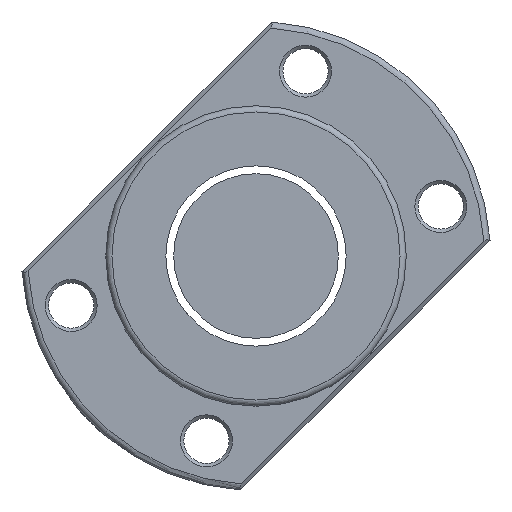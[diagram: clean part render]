
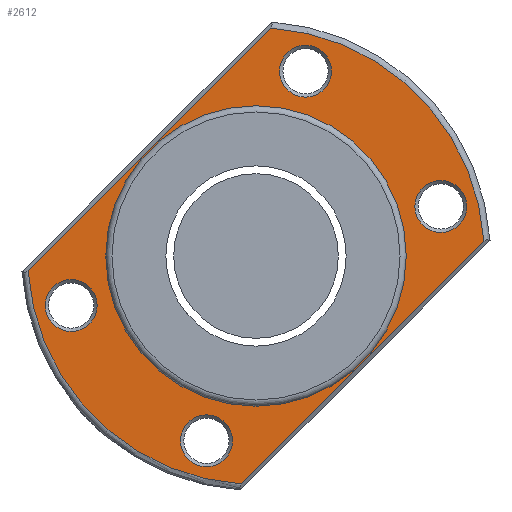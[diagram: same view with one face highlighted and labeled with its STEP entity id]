
A CAD part, left-side view. The second image highlights one B-rep face of the part: STEP entity #2612.
In plain terms, the highlighted planar face has unit normal (-1, 0, 0).
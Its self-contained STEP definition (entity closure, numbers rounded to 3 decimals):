
#20 = VERTEX_POINT ( 'NONE', #1706 ) ;
#78 = DIRECTION ( 'NONE',  ( 1., 0., 0. ) ) ;
#112 = EDGE_LOOP ( 'NONE', ( #797 ) ) ;
#115 = VERTEX_POINT ( 'NONE', #243 ) ;
#124 = CARTESIAN_POINT ( 'NONE',  ( -70.5, -44.916, 18.335 ) ) ;
#136 = VERTEX_POINT ( 'NONE', #124 ) ;
#163 = CARTESIAN_POINT ( 'NONE',  ( -70.5, 44.916, -5.735 ) ) ;
#224 = LINE ( 'NONE', #2558, #1767 ) ;
#243 = CARTESIAN_POINT ( 'NONE',  ( -70.5, 3.489, -55.39 ) ) ;
#269 = EDGE_LOOP ( 'NONE', ( #964, #1754, #2580, #1483 ) ) ;
#310 = CARTESIAN_POINT ( 'NONE',  ( -70.5, 0., 0. ) ) ;
#329 = EDGE_CURVE ( 'NONE', #1989, #1989, #1517, .T. ) ;
#348 = AXIS2_PLACEMENT_3D ( 'NONE', #1817, #923, #1636 ) ;
#380 = DIRECTION ( 'NONE',  ( 0., 0., 1. ) ) ;
#397 = CARTESIAN_POINT ( 'NONE',  ( -70.5, 12.035, -38.616 ) ) ;
#435 = EDGE_CURVE ( 'NONE', #20, #115, #1074, .T. ) ;
#468 = PLANE ( 'NONE',  #829 ) ;
#532 = EDGE_LOOP ( 'NONE', ( #562 ) ) ;
#562 = ORIENTED_EDGE ( 'NONE', *, *, #1913, .T. ) ;
#589 = AXIS2_PLACEMENT_3D ( 'NONE', #1293, #2928, #1318 ) ;
#599 = VERTEX_POINT ( 'NONE', #1070 ) ;
#712 = EDGE_CURVE ( 'NONE', #2727, #1916, #2396, .T. ) ;
#773 = LINE ( 'NONE', #2121, #2549 ) ;
#797 = ORIENTED_EDGE ( 'NONE', *, *, #329, .T. ) ;
#829 = AXIS2_PLACEMENT_3D ( 'NONE', #1158, #889, #1843 ) ;
#889 = DIRECTION ( 'NONE',  ( -1., 0., 0. ) ) ;
#899 = ORIENTED_EDGE ( 'NONE', *, *, #2117, .T. ) ;
#919 = FACE_BOUND ( 'NONE', #532, .T. ) ;
#923 = DIRECTION ( 'NONE',  ( 1., 0., 0. ) ) ;
#960 = DIRECTION ( 'NONE',  ( -1., 0., 0. ) ) ;
#964 = ORIENTED_EDGE ( 'NONE', *, *, #2213, .T. ) ;
#973 = DIRECTION ( 'NONE',  ( 0., 0., 1. ) ) ;
#1031 = CIRCLE ( 'NONE', #2451, 6.3 ) ;
#1041 = CARTESIAN_POINT ( 'NONE',  ( -70.5, 44.916, -12.035 ) ) ;
#1070 = CARTESIAN_POINT ( 'NONE',  ( -70.5, 0., -36.5 ) ) ;
#1074 = CIRCLE ( 'NONE', #2732, 55.5 ) ;
#1122 = CIRCLE ( 'NONE', #348, 36.5 ) ;
#1141 = FACE_BOUND ( 'NONE', #1540, .T. ) ;
#1158 = CARTESIAN_POINT ( 'NONE',  ( -70.5, 57., 0. ) ) ;
#1169 = DIRECTION ( 'NONE',  ( -1., 0., 0. ) ) ;
#1193 = DIRECTION ( 'NONE',  ( 1., 0., 0. ) ) ;
#1224 = DIRECTION ( 'NONE',  ( 0., 0., 1. ) ) ;
#1236 = EDGE_LOOP ( 'NONE', ( #2162 ) ) ;
#1265 = EDGE_CURVE ( 'NONE', #2029, #2029, #2005, .T. ) ;
#1293 = CARTESIAN_POINT ( 'NONE',  ( -70.5, -44.916, 12.035 ) ) ;
#1303 = CARTESIAN_POINT ( 'NONE',  ( -70.5, -12.035, 51.216 ) ) ;
#1318 = DIRECTION ( 'NONE',  ( 0., 0., 1. ) ) ;
#1429 = ORIENTED_EDGE ( 'NONE', *, *, #2441, .T. ) ;
#1454 = CARTESIAN_POINT ( 'NONE',  ( -70.5, -12.035, 44.916 ) ) ;
#1474 = CIRCLE ( 'NONE', #589, 6.3 ) ;
#1483 = ORIENTED_EDGE ( 'NONE', *, *, #435, .T. ) ;
#1487 = DIRECTION ( 'NONE',  ( 0., 0.707, -0.707 ) ) ;
#1517 = CIRCLE ( 'NONE', #2595, 6.3 ) ;
#1540 = EDGE_LOOP ( 'NONE', ( #899 ) ) ;
#1636 = DIRECTION ( 'NONE',  ( 0., 0., -1. ) ) ;
#1658 = CARTESIAN_POINT ( 'NONE',  ( -70.5, 0., 0. ) ) ;
#1706 = CARTESIAN_POINT ( 'NONE',  ( -70.5, 55.39, -3.489 ) ) ;
#1754 = ORIENTED_EDGE ( 'NONE', *, *, #712, .T. ) ;
#1767 = VECTOR ( 'NONE', #2812, 1000. ) ;
#1817 = CARTESIAN_POINT ( 'NONE',  ( -70.5, 0., 0. ) ) ;
#1828 = FACE_BOUND ( 'NONE', #1236, .T. ) ;
#1843 = DIRECTION ( 'NONE',  ( 0., 0., 1. ) ) ;
#1854 = AXIS2_PLACEMENT_3D ( 'NONE', #1658, #1169, #2548 ) ;
#1913 = EDGE_CURVE ( 'NONE', #136, #136, #1474, .T. ) ;
#1916 = VERTEX_POINT ( 'NONE', #2701 ) ;
#1960 = AXIS2_PLACEMENT_3D ( 'NONE', #1041, #2244, #380 ) ;
#1989 = VERTEX_POINT ( 'NONE', #397 ) ;
#2005 = CIRCLE ( 'NONE', #1960, 6.3 ) ;
#2029 = VERTEX_POINT ( 'NONE', #163 ) ;
#2038 = FACE_BOUND ( 'NONE', #112, .T. ) ;
#2101 = FACE_OUTER_BOUND ( 'NONE', #269, .T. ) ;
#2117 = EDGE_CURVE ( 'NONE', #599, #599, #1122, .T. ) ;
#2121 = CARTESIAN_POINT ( 'NONE',  ( -70.5, 54.451, -2.549 ) ) ;
#2123 = DIRECTION ( 'NONE',  ( 0., 0., 1. ) ) ;
#2162 = ORIENTED_EDGE ( 'NONE', *, *, #1265, .T. ) ;
#2213 = EDGE_CURVE ( 'NONE', #115, #2727, #224, .T. ) ;
#2244 = DIRECTION ( 'NONE',  ( 1., 0., 0. ) ) ;
#2268 = CARTESIAN_POINT ( 'NONE',  ( -70.5, -55.39, 3.489 ) ) ;
#2360 = EDGE_CURVE ( 'NONE', #1916, #20, #773, .T. ) ;
#2370 = CARTESIAN_POINT ( 'NONE',  ( -70.5, 12.035, -44.916 ) ) ;
#2396 = CIRCLE ( 'NONE', #1854, 55.5 ) ;
#2441 = EDGE_CURVE ( 'NONE', #2951, #2951, #1031, .T. ) ;
#2451 = AXIS2_PLACEMENT_3D ( 'NONE', #1454, #1193, #973 ) ;
#2516 = FACE_BOUND ( 'NONE', #2916, .T. ) ;
#2548 = DIRECTION ( 'NONE',  ( 0., 0., 1. ) ) ;
#2549 = VECTOR ( 'NONE', #1487, 1000. ) ;
#2558 = CARTESIAN_POINT ( 'NONE',  ( -70.5, 2.549, -54.451 ) ) ;
#2580 = ORIENTED_EDGE ( 'NONE', *, *, #2360, .T. ) ;
#2595 = AXIS2_PLACEMENT_3D ( 'NONE', #2370, #78, #1224 ) ;
#2612 = ADVANCED_FACE ( 'NONE', ( #2038, #919, #2516, #1828, #1141, #2101 ), #468, .T. ) ;
#2701 = CARTESIAN_POINT ( 'NONE',  ( -70.5, -3.489, 55.39 ) ) ;
#2727 = VERTEX_POINT ( 'NONE', #2268 ) ;
#2732 = AXIS2_PLACEMENT_3D ( 'NONE', #310, #960, #2123 ) ;
#2812 = DIRECTION ( 'NONE',  ( 0., -0.707, 0.707 ) ) ;
#2916 = EDGE_LOOP ( 'NONE', ( #1429 ) ) ;
#2928 = DIRECTION ( 'NONE',  ( 1., 0., 0. ) ) ;
#2951 = VERTEX_POINT ( 'NONE', #1303 ) ;
